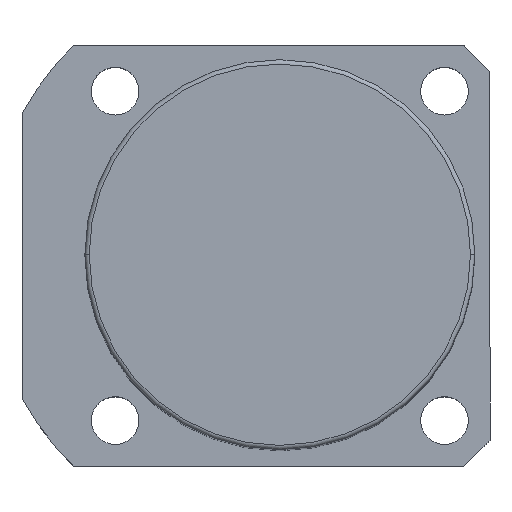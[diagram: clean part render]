
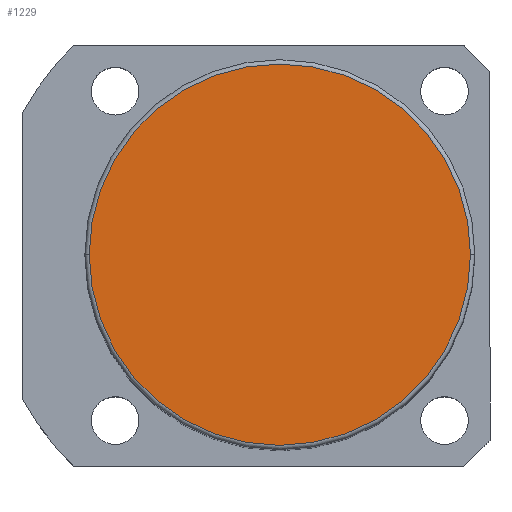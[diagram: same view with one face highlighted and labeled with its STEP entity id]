
A CAD part, top view. The second image highlights one B-rep face of the part: STEP entity #1229.
In plain terms, the highlighted planar face has unit normal (0, 0, 1).
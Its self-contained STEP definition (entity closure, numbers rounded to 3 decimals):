
#170 = DIRECTION ( 'NONE',  ( 0., 0., 1. ) ) ;
#188 = DIRECTION ( 'NONE',  ( 0., 0., 1. ) ) ;
#259 = CARTESIAN_POINT ( 'NONE',  ( 0., 0., 171.5 ) ) ;
#389 = AXIS2_PLACEMENT_3D ( 'NONE', #586, #188, #748 ) ;
#441 = EDGE_CURVE ( 'NONE', #1520, #1187, #984, .T. ) ;
#507 = ORIENTED_EDGE ( 'NONE', *, *, #1006, .T. ) ;
#586 = CARTESIAN_POINT ( 'NONE',  ( 0., 0., 171.5 ) ) ;
#632 = FACE_OUTER_BOUND ( 'NONE', #1720, .T. ) ;
#635 = AXIS2_PLACEMENT_3D ( 'NONE', #259, #1360, #811 ) ;
#734 = CARTESIAN_POINT ( 'NONE',  ( 0., 0., 171.5 ) ) ;
#748 = DIRECTION ( 'NONE',  ( 1., 0., 0. ) ) ;
#811 = DIRECTION ( 'NONE',  ( 1., 0., 0. ) ) ;
#943 = AXIS2_PLACEMENT_3D ( 'NONE', #734, #170, #1303 ) ;
#984 = CIRCLE ( 'NONE', #943, 44. ) ;
#1006 = EDGE_CURVE ( 'NONE', #1187, #1520, #1343, .T. ) ;
#1187 = VERTEX_POINT ( 'NONE', #1325 ) ;
#1229 = ADVANCED_FACE ( 'NONE', ( #632 ), #1672, .T. ) ;
#1303 = DIRECTION ( 'NONE',  ( 1., 0., 0. ) ) ;
#1325 = CARTESIAN_POINT ( 'NONE',  ( -44., 0., 171.5 ) ) ;
#1343 = CIRCLE ( 'NONE', #389, 44. ) ;
#1360 = DIRECTION ( 'NONE',  ( 0., 0., 1. ) ) ;
#1435 = CARTESIAN_POINT ( 'NONE',  ( 44., 0., 171.5 ) ) ;
#1520 = VERTEX_POINT ( 'NONE', #1435 ) ;
#1548 = ORIENTED_EDGE ( 'NONE', *, *, #441, .T. ) ;
#1672 = PLANE ( 'NONE',  #635 ) ;
#1720 = EDGE_LOOP ( 'NONE', ( #1548, #507 ) ) ;
